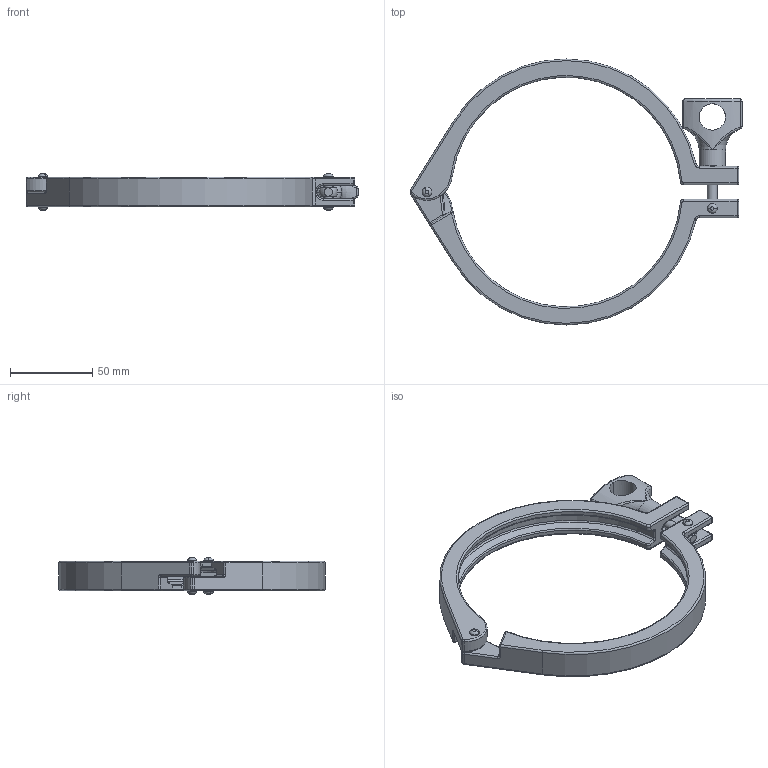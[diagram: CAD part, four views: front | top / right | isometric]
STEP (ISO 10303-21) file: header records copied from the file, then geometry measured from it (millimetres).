
FILE_DESCRIPTION (( 'STEP AP203' ), '1' );
FILE_NAME ('13MHHM5.0-H.STEP', '2024-06-19T08:50:12', ( '' ), ( '' ), 'SwSTEP 2.0', 'SolidWorks 2014', '' );
FILE_SCHEMA (( 'CONFIG_CONTROL_DESIGN' ));
Length unit declared in the file: millimetre
Products named in the file (15): 13MHHM-PARTS-6-2; CLAMP5.0-2; 13MHHM-PARTS-6-1; Wing Nut 14; 13MHHM-PART-4; CLAMP5.0-1; 13MHHM5.0-H
Assembly tree (8 placements, depth 2):
  13MHHM-PARTS-6-2
  13MHHM-PARTS-6-2
  CLAMP5.0-2
  13MHHM-PARTS-6-1
  CLAMP5.0-1
Bounding box: 201.31 x 161.3 x 22 mm (x, y, z)
Volume: 92689.5 mm3; surface area: 41070.9 mm2
Topology: 8 solids, 8 shells, 383 faces, 872 edges, 476 vertices
Faces by surface type: cylinder 125, torus 98, bspline 66, plane 52, sphere 36, cone 6
Entity records: 13710 total; most frequent: CARTESIAN_POINT 4583, DIRECTION 1743, ORIENTED_EDGE 1588, EDGE_CURVE 794, AXIS2_PLACEMENT_3D 776, CIRCLE 468, VERTEX_POINT 446, EDGE_LOOP 378
